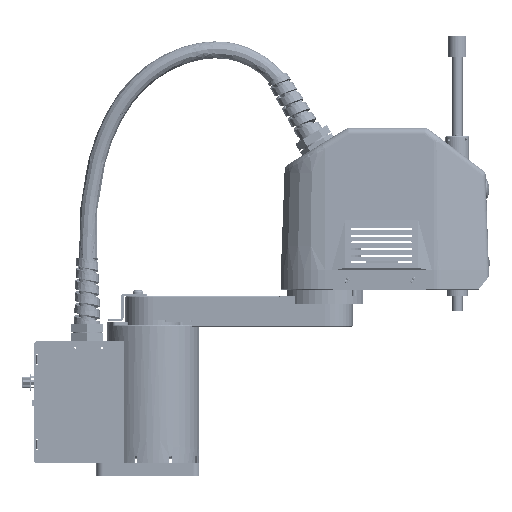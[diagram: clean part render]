
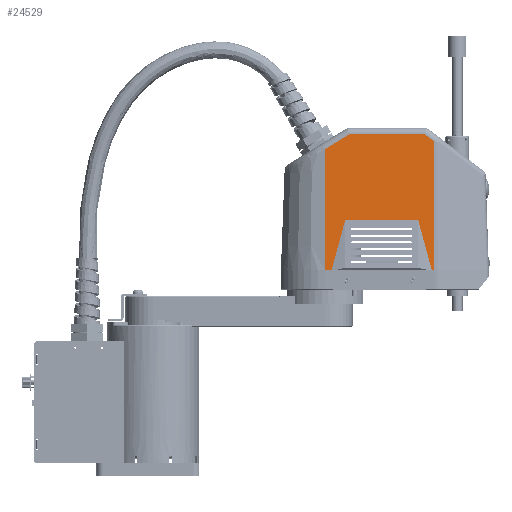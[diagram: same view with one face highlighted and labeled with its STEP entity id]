
A CAD part, front view. The second image highlights one B-rep face of the part: STEP entity #24529.
In plain terms, the highlighted planar face has unit normal (0, -0.999, 0.035) as drawn and (0, 0.999, -0.035) by its records, which use the part's own axes.
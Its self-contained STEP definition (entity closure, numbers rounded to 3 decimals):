
#2166 = VERTEX_POINT ( 'NONE', #38046 ) ;
#7518 = LINE ( 'NONE', #78674, #95192 ) ;
#7531 = VERTEX_POINT ( 'NONE', #65168 ) ;
#8102 = CARTESIAN_POINT ( 'NONE',  ( 52., -3.585, -102.574 ) ) ;
#9498 = ORIENTED_EDGE ( 'NONE', *, *, #72753, .T. ) ;
#10997 = CARTESIAN_POINT ( 'NONE',  ( 117.699, 0., 0.1 ) ) ;
#13560 = DIRECTION ( 'NONE',  ( -1., 0., 0. ) ) ;
#14794 = CARTESIAN_POINT ( 'NONE',  ( 110.316, -3.585, -102.574 ) ) ;
#16542 = LINE ( 'NONE', #113555, #47127 ) ;
#18725 = PLANE ( 'NONE',  #112574 ) ;
#20839 = ORIENTED_EDGE ( 'NONE', *, *, #119643, .F. ) ;
#21368 = VERTEX_POINT ( 'NONE', #25738 ) ;
#21626 = EDGE_CURVE ( 'NONE', #7531, #53502, #98891, .T. ) ;
#24529 = ADVANCED_FACE ( 'NONE', ( #75875 ), #18725, .T. ) ;
#25738 = CARTESIAN_POINT ( 'NONE',  ( 35., -0.003, 0. ) ) ;
#27512 = VERTEX_POINT ( 'NONE', #28686 ) ;
#28493 = CARTESIAN_POINT ( 'NONE',  ( 115.836, 0.018, 0.605 ) ) ;
#28686 = CARTESIAN_POINT ( 'NONE',  ( 53.415, -3.585, -102.574 ) ) ;
#32679 = CARTESIAN_POINT ( 'NONE',  ( 45.328, -0.685, -19.525 ) ) ;
#38046 = CARTESIAN_POINT ( 'NONE',  ( 35., -3.19, -91.242 ) ) ;
#38087 = DIRECTION ( 'NONE',  ( -0.262, -0.034, -0.965 ) ) ;
#39948 = LINE ( 'NONE', #115833, #59117 ) ;
#43223 = ORIENTED_EDGE ( 'NONE', *, *, #123366, .F. ) ;
#44125 = ORIENTED_EDGE ( 'NONE', *, *, #62193, .T. ) ;
#46686 = DIRECTION ( 'NONE',  ( 0., 0.035, 0.999 ) ) ;
#47041 = VECTOR ( 'NONE', #38087, 1000. ) ;
#47127 = VECTOR ( 'NONE', #13560, 1000. ) ;
#47971 = CARTESIAN_POINT ( 'NONE',  ( 35., 0., 0.1 ) ) ;
#48877 = EDGE_CURVE ( 'NONE', #87274, #61284, #16542, .T. ) ;
#49455 = LINE ( 'NONE', #10997, #98805 ) ;
#50599 = DIRECTION ( 'NONE',  ( -0.796, -0.021, -0.605 ) ) ;
#51331 = VECTOR ( 'NONE', #54950, 1000. ) ;
#53502 = VERTEX_POINT ( 'NONE', #67990 ) ;
#54343 = DIRECTION ( 'NONE',  ( -1., 0., 0. ) ) ;
#54950 = DIRECTION ( 'NONE',  ( -1., 0., 0. ) ) ;
#55579 = VECTOR ( 'NONE', #50599, 1000. ) ;
#55914 = ORIENTED_EDGE ( 'NONE', *, *, #21626, .F. ) ;
#56983 = LINE ( 'NONE', #47971, #75622 ) ;
#57692 = CARTESIAN_POINT ( 'NONE',  ( 117.699, -3.39, -96.963 ) ) ;
#57891 = DIRECTION ( 'NONE',  ( 0., 0.999, -0.035 ) ) ;
#59117 = VECTOR ( 'NONE', #88160, 1000. ) ;
#59869 = VERTEX_POINT ( 'NONE', #81101 ) ;
#60327 = EDGE_LOOP ( 'NONE', ( #55914, #65054, #20839, #70536, #43223, #74500, #9498, #113904, #44125, #106313 ) ) ;
#61284 = VERTEX_POINT ( 'NONE', #96258 ) ;
#61390 = VERTEX_POINT ( 'NONE', #57692 ) ;
#62193 = EDGE_CURVE ( 'NONE', #2166, #21368, #56983, .T. ) ;
#62198 = DIRECTION ( 'NONE',  ( -0.262, 0.034, 0.965 ) ) ;
#65054 = ORIENTED_EDGE ( 'NONE', *, *, #107421, .F. ) ;
#65168 = CARTESIAN_POINT ( 'NONE',  ( 50.33, -1.329, -37.946 ) ) ;
#67799 = DIRECTION ( 'NONE',  ( -0.852, 0.018, 0.524 ) ) ;
#67990 = CARTESIAN_POINT ( 'NONE',  ( 40.027, -0.003, 0. ) ) ;
#69161 = VECTOR ( 'NONE', #62198, 1000. ) ;
#70536 = ORIENTED_EDGE ( 'NONE', *, *, #48877, .F. ) ;
#72753 = EDGE_CURVE ( 'NONE', #111515, #27512, #76129, .T. ) ;
#74500 = ORIENTED_EDGE ( 'NONE', *, *, #122325, .T. ) ;
#75622 = VECTOR ( 'NONE', #46686, 1000. ) ;
#75875 = FACE_OUTER_BOUND ( 'NONE', #60327, .T. ) ;
#76129 = LINE ( 'NONE', #8102, #51331 ) ;
#76232 = EDGE_CURVE ( 'NONE', #27512, #2166, #7518, .T. ) ;
#78674 = CARTESIAN_POINT ( 'NONE',  ( 37.545, -3.244, -92.808 ) ) ;
#81101 = CARTESIAN_POINT ( 'NONE',  ( 105.369, -1.329, -37.946 ) ) ;
#83648 = EDGE_CURVE ( 'NONE', #53502, #21368, #39948, .T. ) ;
#87274 = VERTEX_POINT ( 'NONE', #114820 ) ;
#88160 = DIRECTION ( 'NONE',  ( -1., 0., 0. ) ) ;
#88659 = DIRECTION ( 'NONE',  ( 0., 0.035, 0.999 ) ) ;
#95192 = VECTOR ( 'NONE', #67799, 1000. ) ;
#96018 = VECTOR ( 'NONE', #54343, 1000. ) ;
#96258 = CARTESIAN_POINT ( 'NONE',  ( 115.672, -0.003, 0. ) ) ;
#97733 = DIRECTION ( 'NONE',  ( 0., 0.035, 0.999 ) ) ;
#98805 = VECTOR ( 'NONE', #88659, 1000. ) ;
#98891 = LINE ( 'NONE', #32679, #69161 ) ;
#99457 = CARTESIAN_POINT ( 'NONE',  ( 109.056, -3.619, -103.532 ) ) ;
#104961 = LINE ( 'NONE', #28493, #47041 ) ;
#106091 = CARTESIAN_POINT ( 'NONE',  ( 117.699, 0., 0.1 ) ) ;
#106313 = ORIENTED_EDGE ( 'NONE', *, *, #83648, .F. ) ;
#107421 = EDGE_CURVE ( 'NONE', #59869, #7531, #109846, .T. ) ;
#109846 = LINE ( 'NONE', #120124, #96018 ) ;
#111515 = VERTEX_POINT ( 'NONE', #14794 ) ;
#112574 = AXIS2_PLACEMENT_3D ( 'NONE', #106091, #57891, #97733 ) ;
#113555 = CARTESIAN_POINT ( 'NONE',  ( 0., -0.003, 0. ) ) ;
#113904 = ORIENTED_EDGE ( 'NONE', *, *, #76232, .T. ) ;
#114820 = CARTESIAN_POINT ( 'NONE',  ( 117.699, -0.003, 0. ) ) ;
#115833 = CARTESIAN_POINT ( 'NONE',  ( 0., -0.003, 0. ) ) ;
#119387 = LINE ( 'NONE', #99457, #55579 ) ;
#119643 = EDGE_CURVE ( 'NONE', #61284, #59869, #104961, .T. ) ;
#120124 = CARTESIAN_POINT ( 'NONE',  ( 117.699, -1.329, -37.946 ) ) ;
#122325 = EDGE_CURVE ( 'NONE', #61390, #111515, #119387, .T. ) ;
#123366 = EDGE_CURVE ( 'NONE', #61390, #87274, #49455, .T. ) ;
